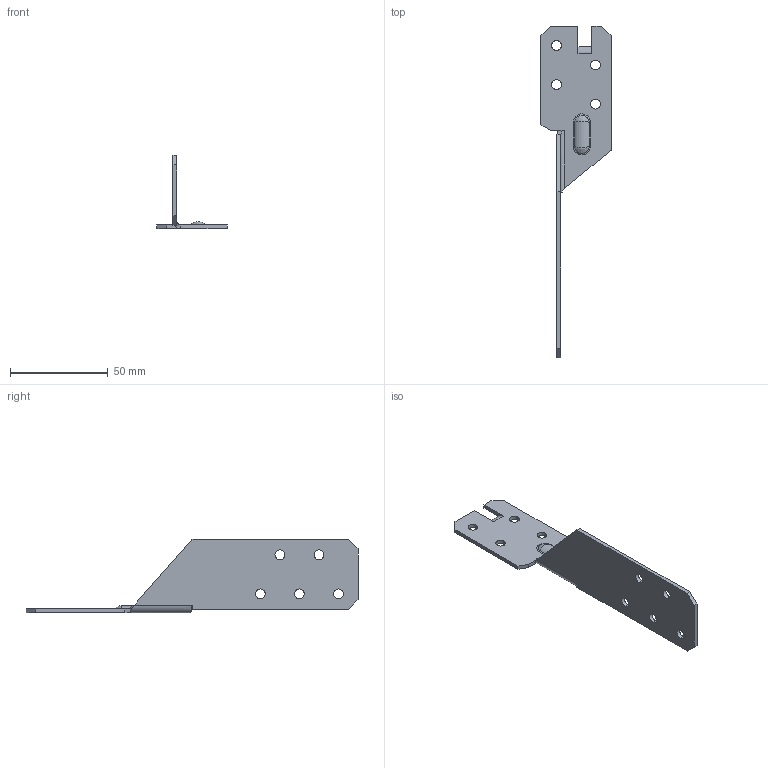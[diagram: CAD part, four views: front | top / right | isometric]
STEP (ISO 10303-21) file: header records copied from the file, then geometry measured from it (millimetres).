
FILE_DESCRIPTION (( 'STEP AP203' ), '1' );
FILE_NAME ('100501RL.STEP', '2020-02-17T09:11:27', ( '' ), ( '' ), 'SwSTEP 2.0', 'SolidWorks 2013', '' );
FILE_SCHEMA (( 'CONFIG_CONTROL_DESIGN' ));
Length unit declared in the file: millimetre
Products named in the file (1): 100501RL
Bounding box: 36 x 170 x 37.74 mm (x, y, z)
Volume: 11583.5 mm3; surface area: 12854.8 mm2
Topology: 1 solids, 1 shells, 67 faces, 173 edges, 110 vertices
Faces by surface type: plane 30, cylinder 27, bspline 10
Entity records: 2791 total; most frequent: CARTESIAN_POINT 1068, ORIENTED_EDGE 346, DIRECTION 323, EDGE_CURVE 173, VERTEX_POINT 110, AXIS2_PLACEMENT_3D 108, LINE 107, VECTOR 107
